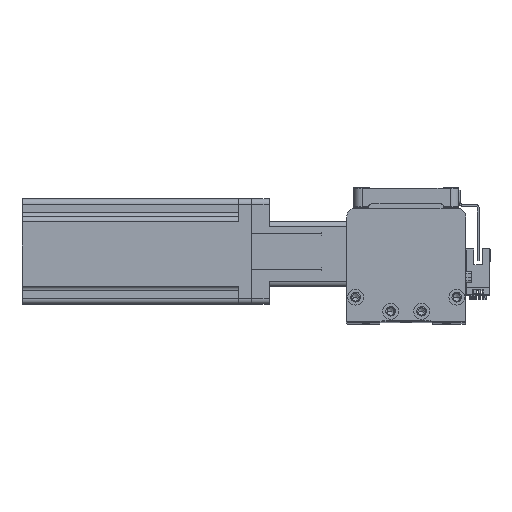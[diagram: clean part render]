
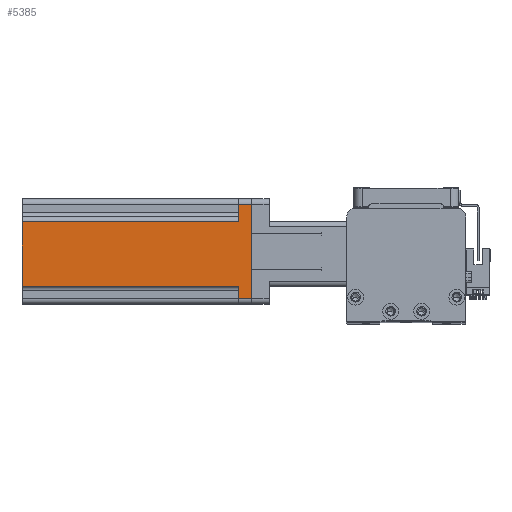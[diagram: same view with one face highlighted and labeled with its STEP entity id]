
A CAD part, top view. The second image highlights one B-rep face of the part: STEP entity #5385.
In plain terms, the highlighted planar face has unit normal (0, 0, 1) as drawn and (-1, 0, 0) by its records, which use the part's own axes.
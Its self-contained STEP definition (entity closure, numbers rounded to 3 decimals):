
#51 = VECTOR ( 'NONE', #35031, 1000. ) ;
#228 = EDGE_LOOP ( 'NONE', ( #32344, #12037, #11186, #24485, #25771, #12661, #2874, #27118 ) ) ;
#749 = CARTESIAN_POINT ( 'NONE',  ( -30., -27., 7.5 ) ) ;
#975 = VERTEX_POINT ( 'NONE', #1926 ) ;
#1926 = CARTESIAN_POINT ( 'NONE',  ( -30., -17., 130.7 ) ) ;
#2195 = CARTESIAN_POINT ( 'NONE',  ( -30., 27., 7.5 ) ) ;
#2357 = DIRECTION ( 'NONE',  ( 0., 0., 1. ) ) ;
#2874 = ORIENTED_EDGE ( 'NONE', *, *, #32769, .T. ) ;
#5385 = ADVANCED_FACE ( 'NONE', ( #31353 ), #35505, .F. ) ;
#5592 = DIRECTION ( 'NONE',  ( 0., -1., 0. ) ) ;
#5916 = EDGE_CURVE ( 'NONE', #26171, #29908, #18558, .T. ) ;
#5986 = CARTESIAN_POINT ( 'NONE',  ( -30., -30., 130.7 ) ) ;
#6672 = VERTEX_POINT ( 'NONE', #749 ) ;
#7332 = VECTOR ( 'NONE', #36803, 1000. ) ;
#10960 = EDGE_CURVE ( 'NONE', #32929, #6672, #11991, .T. ) ;
#11186 = ORIENTED_EDGE ( 'NONE', *, *, #41225, .F. ) ;
#11601 = DIRECTION ( 'NONE',  ( 0., 0., 1. ) ) ;
#11991 = LINE ( 'NONE', #25122, #36960 ) ;
#12037 = ORIENTED_EDGE ( 'NONE', *, *, #36426, .T. ) ;
#12661 = ORIENTED_EDGE ( 'NONE', *, *, #39581, .T. ) ;
#14049 = EDGE_CURVE ( 'NONE', #17179, #6672, #16194, .T. ) ;
#14089 = CARTESIAN_POINT ( 'NONE',  ( -30., 27., 0. ) ) ;
#15699 = LINE ( 'NONE', #21907, #40647 ) ;
#16047 = LINE ( 'NONE', #33525, #7332 ) ;
#16154 = CARTESIAN_POINT ( 'NONE',  ( -30., -30., 130.7 ) ) ;
#16194 = LINE ( 'NONE', #37524, #32463 ) ;
#17179 = VERTEX_POINT ( 'NONE', #22183 ) ;
#18558 = LINE ( 'NONE', #28605, #51 ) ;
#19406 = DIRECTION ( 'NONE',  ( 0., 0., -1. ) ) ;
#20380 = DIRECTION ( 'NONE',  ( 0., 0., -1. ) ) ;
#21829 = CARTESIAN_POINT ( 'NONE',  ( -30., 20., 130.7 ) ) ;
#21907 = CARTESIAN_POINT ( 'NONE',  ( -30., -17., 130.7 ) ) ;
#22183 = CARTESIAN_POINT ( 'NONE',  ( -30., -27., 0. ) ) ;
#22362 = DIRECTION ( 'NONE',  ( 0., -1., 0. ) ) ;
#22447 = VECTOR ( 'NONE', #22362, 1000. ) ;
#23348 = EDGE_CURVE ( 'NONE', #26171, #28734, #16047, .T. ) ;
#24485 = ORIENTED_EDGE ( 'NONE', *, *, #23348, .F. ) ;
#25043 = LINE ( 'NONE', #35418, #32706 ) ;
#25122 = CARTESIAN_POINT ( 'NONE',  ( -30., -30., 7.5 ) ) ;
#25678 = DIRECTION ( 'NONE',  ( 0., -1., 0. ) ) ;
#25771 = ORIENTED_EDGE ( 'NONE', *, *, #5916, .T. ) ;
#26171 = VERTEX_POINT ( 'NONE', #27962 ) ;
#27118 = ORIENTED_EDGE ( 'NONE', *, *, #14049, .T. ) ;
#27226 = VECTOR ( 'NONE', #20380, 1000. ) ;
#27962 = CARTESIAN_POINT ( 'NONE',  ( -30., 20., 7.5 ) ) ;
#28605 = CARTESIAN_POINT ( 'NONE',  ( -30., 30., 7.5 ) ) ;
#28734 = VERTEX_POINT ( 'NONE', #21829 ) ;
#29908 = VERTEX_POINT ( 'NONE', #2195 ) ;
#31148 = LINE ( 'NONE', #5986, #22447 ) ;
#31353 = FACE_OUTER_BOUND ( 'NONE', #228, .T. ) ;
#32344 = ORIENTED_EDGE ( 'NONE', *, *, #10960, .F. ) ;
#32463 = VECTOR ( 'NONE', #11601, 1000. ) ;
#32706 = VECTOR ( 'NONE', #25678, 1000. ) ;
#32769 = EDGE_CURVE ( 'NONE', #38616, #17179, #25043, .T. ) ;
#32929 = VERTEX_POINT ( 'NONE', #39349 ) ;
#33525 = CARTESIAN_POINT ( 'NONE',  ( -30., 20., 7.5 ) ) ;
#34882 = LINE ( 'NONE', #39889, #27226 ) ;
#35031 = DIRECTION ( 'NONE',  ( 0., 1., 0. ) ) ;
#35418 = CARTESIAN_POINT ( 'NONE',  ( -30., -30., 0. ) ) ;
#35505 = PLANE ( 'NONE',  #39798 ) ;
#36426 = EDGE_CURVE ( 'NONE', #32929, #975, #15699, .T. ) ;
#36803 = DIRECTION ( 'NONE',  ( 0., 0., 1. ) ) ;
#36960 = VECTOR ( 'NONE', #5592, 1000. ) ;
#37524 = CARTESIAN_POINT ( 'NONE',  ( -30., -27., 130.7 ) ) ;
#38616 = VERTEX_POINT ( 'NONE', #14089 ) ;
#38880 = DIRECTION ( 'NONE',  ( 1., 0., 0. ) ) ;
#39349 = CARTESIAN_POINT ( 'NONE',  ( -30., -17., 7.5 ) ) ;
#39581 = EDGE_CURVE ( 'NONE', #29908, #38616, #34882, .T. ) ;
#39798 = AXIS2_PLACEMENT_3D ( 'NONE', #16154, #38880, #19406 ) ;
#39889 = CARTESIAN_POINT ( 'NONE',  ( -30., 27., 130.7 ) ) ;
#40647 = VECTOR ( 'NONE', #2357, 1000. ) ;
#41225 = EDGE_CURVE ( 'NONE', #28734, #975, #31148, .T. ) ;
